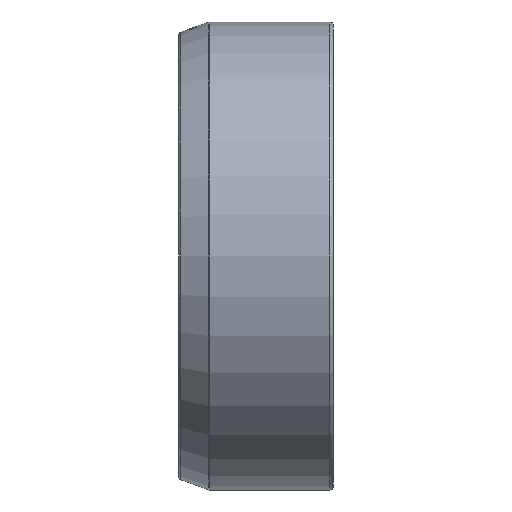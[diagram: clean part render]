
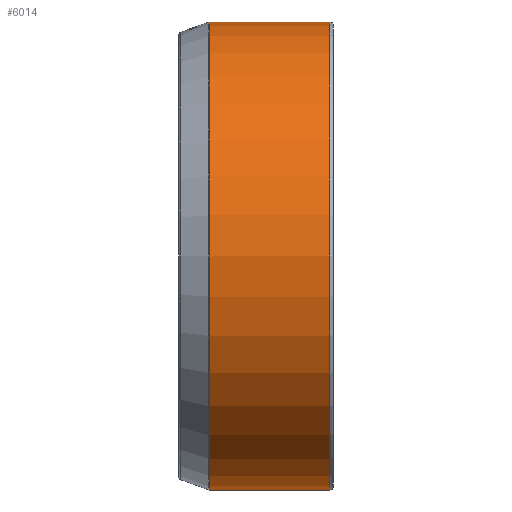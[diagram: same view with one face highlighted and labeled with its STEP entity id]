
A CAD part, left-side view. The second image highlights one B-rep face of the part: STEP entity #6014.
In plain terms, the highlighted cylindrical face has radius 65 mm (diameter 130 mm), a partial arc.
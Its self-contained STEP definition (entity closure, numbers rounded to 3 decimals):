
#639 = CARTESIAN_POINT ( 'NONE',  ( 0., 34.424, 65. ) ) ;
#878 = CARTESIAN_POINT ( 'NONE',  ( 0., 0., 65. ) ) ;
#1429 = DIRECTION ( 'NONE',  ( 0., 0., -1. ) ) ;
#1489 = VERTEX_POINT ( 'NONE', #12349 ) ;
#1643 = CARTESIAN_POINT ( 'NONE',  ( 0., 0., 0. ) ) ;
#1862 = AXIS2_PLACEMENT_3D ( 'NONE', #2251, #12168, #11083 ) ;
#2060 = ORIENTED_EDGE ( 'NONE', *, *, #2738, .T. ) ;
#2099 = CARTESIAN_POINT ( 'NONE',  ( 0., 1., 65. ) ) ;
#2134 = EDGE_LOOP ( 'NONE', ( #6951, #5573, #3429, #2060 ) ) ;
#2251 = CARTESIAN_POINT ( 'NONE',  ( 0., 1., 0. ) ) ;
#2738 = EDGE_CURVE ( 'NONE', #1489, #7258, #9256, .T. ) ;
#3073 = EDGE_CURVE ( 'NONE', #11893, #7258, #5231, .T. ) ;
#3429 = ORIENTED_EDGE ( 'NONE', *, *, #7329, .T. ) ;
#3473 = VECTOR ( 'NONE', #10802, 1000. ) ;
#4413 = DIRECTION ( 'NONE',  ( 0., -1., 0. ) ) ;
#5168 = DIRECTION ( 'NONE',  ( 0., -1., 0. ) ) ;
#5231 = LINE ( 'NONE', #878, #3473 ) ;
#5506 = LINE ( 'NONE', #11004, #9973 ) ;
#5573 = ORIENTED_EDGE ( 'NONE', *, *, #7074, .T. ) ;
#6014 = ADVANCED_FACE ( 'NONE', ( #9175 ), #11563, .T. ) ;
#6951 = ORIENTED_EDGE ( 'NONE', *, *, #3073, .F. ) ;
#7074 = EDGE_CURVE ( 'NONE', #11893, #7951, #13671, .T. ) ;
#7258 = VERTEX_POINT ( 'NONE', #2099 ) ;
#7329 = EDGE_CURVE ( 'NONE', #7951, #1489, #5506, .T. ) ;
#7875 = AXIS2_PLACEMENT_3D ( 'NONE', #1643, #8086, #1429 ) ;
#7951 = VERTEX_POINT ( 'NONE', #9797 ) ;
#8086 = DIRECTION ( 'NONE',  ( 0., -1., 0. ) ) ;
#8567 = AXIS2_PLACEMENT_3D ( 'NONE', #13925, #5168, #10526 ) ;
#9175 = FACE_OUTER_BOUND ( 'NONE', #2134, .T. ) ;
#9256 = CIRCLE ( 'NONE', #1862, 65. ) ;
#9797 = CARTESIAN_POINT ( 'NONE',  ( 0., 34.424, -65. ) ) ;
#9973 = VECTOR ( 'NONE', #4413, 1000. ) ;
#10526 = DIRECTION ( 'NONE',  ( 0., 0., 1. ) ) ;
#10802 = DIRECTION ( 'NONE',  ( 0., -1., 0. ) ) ;
#11004 = CARTESIAN_POINT ( 'NONE',  ( 0., 0., -65. ) ) ;
#11083 = DIRECTION ( 'NONE',  ( 0., 0., -1. ) ) ;
#11563 = CYLINDRICAL_SURFACE ( 'NONE', #7875, 65. ) ;
#11893 = VERTEX_POINT ( 'NONE', #639 ) ;
#12168 = DIRECTION ( 'NONE',  ( 0., 1., 0. ) ) ;
#12349 = CARTESIAN_POINT ( 'NONE',  ( 0., 1., -65. ) ) ;
#13671 = CIRCLE ( 'NONE', #8567, 65. ) ;
#13925 = CARTESIAN_POINT ( 'NONE',  ( 0., 34.424, 0. ) ) ;
